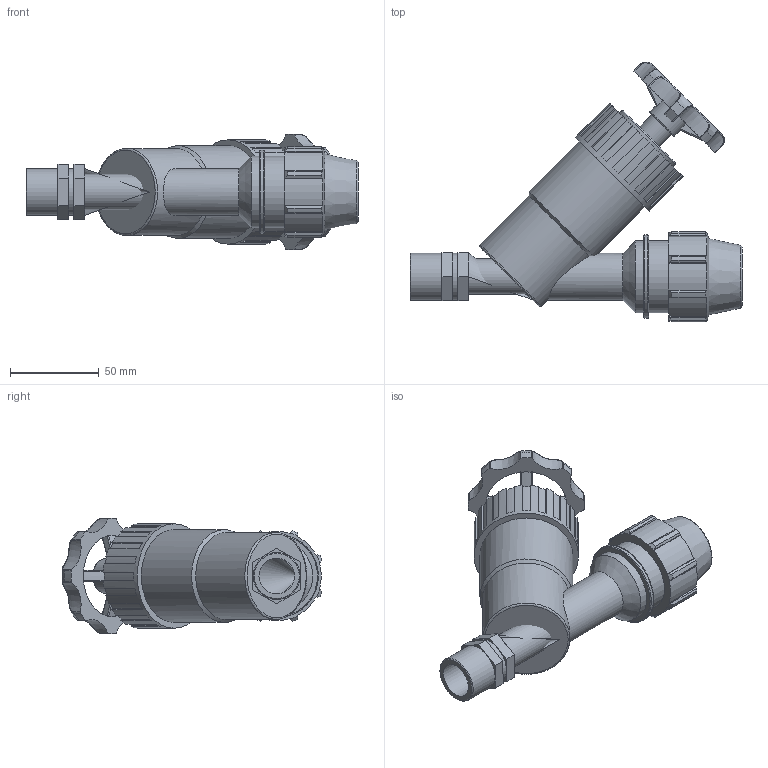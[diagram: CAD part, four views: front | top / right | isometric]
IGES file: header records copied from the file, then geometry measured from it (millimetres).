
Global section: file name: 03048257_030482570A.ipt; native system: Autodesk Inventor 2015; preprocessor: unknown; author: KIM; date: 20180916.173733; units: millimetre
Bounding box: 187 x 146.24 x 65.32 mm (x, y, z)
Volume: 346914.3 mm3; surface area: 63821.1 mm2
Topology: 1 solids, 1 shells, 272 faces, 756 edges, 497 vertices
Faces by surface type: plane 130, cylinder 73, revolution 28, bspline 24, cone 17
Full cylindrical faces by diameter (mm): 15.682 x1, 19.602 x1, 26.441 x4, 40.5 x2, 43.124 x1, 46.98 x1, 49.005 x1, 52.272 x1, 58.806 x1
